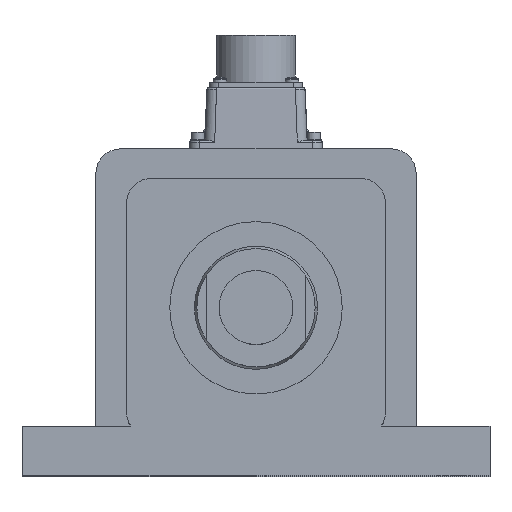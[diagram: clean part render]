
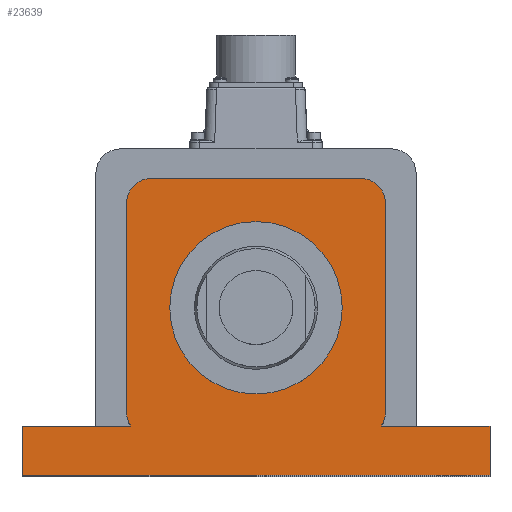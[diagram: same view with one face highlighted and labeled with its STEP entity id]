
A CAD part, top view. The second image highlights one B-rep face of the part: STEP entity #23639.
In plain terms, the highlighted planar face has unit normal (0, 0, 1).
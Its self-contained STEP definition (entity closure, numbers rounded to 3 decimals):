
#312 = AXIS2_PLACEMENT_3D ( 'NONE', #16062, #20297, #18145 ) ;
#657 = PLANE ( 'NONE',  #4209 ) ;
#1234 = ORIENTED_EDGE ( 'NONE', *, *, #10467, .T. ) ;
#1634 = ORIENTED_EDGE ( 'NONE', *, *, #5200, .F. ) ;
#1679 = AXIS2_PLACEMENT_3D ( 'NONE', #7863, #16370, #12361 ) ;
#1775 = CARTESIAN_POINT ( 'NONE',  ( -42.5, 42.5, 270. ) ) ;
#2016 = CARTESIAN_POINT ( 'NONE',  ( 42.5, 52.5, 270. ) ) ;
#2102 = ORIENTED_EDGE ( 'NONE', *, *, #9242, .T. ) ;
#2783 = LINE ( 'NONE', #5473, #22463 ) ;
#2962 = CIRCLE ( 'NONE', #15936, 10. ) ;
#3521 = FACE_BOUND ( 'NONE', #5002, .T. ) ;
#3618 = EDGE_LOOP ( 'NONE', ( #12218, #22902, #17394, #25318, #14630, #20399, #1234, #7174, #23827, #16549, #5455, #2102 ) ) ;
#3855 = VERTEX_POINT ( 'NONE', #27675 ) ;
#4209 = AXIS2_PLACEMENT_3D ( 'NONE', #9551, #16151, #24718 ) ;
#4526 = VERTEX_POINT ( 'NONE', #17341 ) ;
#4892 = CARTESIAN_POINT ( 'NONE',  ( -52.5, -42.5, 270. ) ) ;
#5002 = EDGE_LOOP ( 'NONE', ( #13065, #1634 ) ) ;
#5200 = EDGE_CURVE ( 'NONE', #19059, #18921, #8005, .T. ) ;
#5455 = ORIENTED_EDGE ( 'NONE', *, *, #12729, .T. ) ;
#5473 = CARTESIAN_POINT ( 'NONE',  ( 65., -48., 270. ) ) ;
#5569 = LINE ( 'NONE', #13123, #20534 ) ;
#5958 = DIRECTION ( 'NONE',  ( 0., -1., 0. ) ) ;
#7113 = VECTOR ( 'NONE', #19212, 1000. ) ;
#7174 = ORIENTED_EDGE ( 'NONE', *, *, #28094, .T. ) ;
#7485 = EDGE_CURVE ( 'NONE', #26475, #14685, #5569, .T. ) ;
#7762 = CARTESIAN_POINT ( 'NONE',  ( 95., -48., 270. ) ) ;
#7863 = CARTESIAN_POINT ( 'NONE',  ( 42.5, 42.5, 270. ) ) ;
#8005 = CIRCLE ( 'NONE', #10533, 35. ) ;
#8366 = EDGE_CURVE ( 'NONE', #18921, #19059, #25172, .T. ) ;
#8420 = CARTESIAN_POINT ( 'NONE',  ( -95., -68., 270. ) ) ;
#8481 = CIRCLE ( 'NONE', #12428, 10. ) ;
#8773 = EDGE_CURVE ( 'NONE', #26855, #4526, #9223, .T. ) ;
#8872 = CARTESIAN_POINT ( 'NONE',  ( -52.5, 42.5, 270. ) ) ;
#9037 = CARTESIAN_POINT ( 'NONE',  ( 95., -48., 270. ) ) ;
#9066 = EDGE_CURVE ( 'NONE', #14362, #13012, #2783, .T. ) ;
#9223 = CIRCLE ( 'NONE', #312, 10. ) ;
#9242 = EDGE_CURVE ( 'NONE', #15241, #26855, #12295, .T. ) ;
#9327 = LINE ( 'NONE', #9037, #9644 ) ;
#9551 = CARTESIAN_POINT ( 'NONE',  ( 42.5, 42.5, 270. ) ) ;
#9644 = VECTOR ( 'NONE', #11447, 1000. ) ;
#10162 = EDGE_CURVE ( 'NONE', #3855, #26475, #24093, .T. ) ;
#10467 = EDGE_CURVE ( 'NONE', #13012, #21409, #8481, .T. ) ;
#10533 = AXIS2_PLACEMENT_3D ( 'NONE', #21826, #17505, #24089 ) ;
#10721 = LINE ( 'NONE', #24405, #19533 ) ;
#10826 = EDGE_CURVE ( 'NONE', #4526, #3855, #17008, .T. ) ;
#11141 = CARTESIAN_POINT ( 'NONE',  ( 52.5, 42.5, 270. ) ) ;
#11447 = DIRECTION ( 'NONE',  ( 0., 1., 0. ) ) ;
#11534 = CARTESIAN_POINT ( 'NONE',  ( 50.852, -48., 270. ) ) ;
#11813 = CARTESIAN_POINT ( 'NONE',  ( 0., 0., 270. ) ) ;
#11864 = DIRECTION ( 'NONE',  ( -1., 0., 0. ) ) ;
#12218 = ORIENTED_EDGE ( 'NONE', *, *, #8773, .T. ) ;
#12259 = CARTESIAN_POINT ( 'NONE',  ( -95., -68., 270. ) ) ;
#12295 = LINE ( 'NONE', #4892, #23820 ) ;
#12361 = DIRECTION ( 'NONE',  ( 1., 0., 0. ) ) ;
#12428 = AXIS2_PLACEMENT_3D ( 'NONE', #13770, #24553, #11864 ) ;
#12618 = DIRECTION ( 'NONE',  ( -1., 0., 0. ) ) ;
#12729 = EDGE_CURVE ( 'NONE', #27356, #15241, #2962, .T. ) ;
#13012 = VERTEX_POINT ( 'NONE', #11534 ) ;
#13065 = ORIENTED_EDGE ( 'NONE', *, *, #8366, .F. ) ;
#13123 = CARTESIAN_POINT ( 'NONE',  ( 95., -68., 270. ) ) ;
#13142 = CARTESIAN_POINT ( 'NONE',  ( 95., -68., 270. ) ) ;
#13770 = CARTESIAN_POINT ( 'NONE',  ( 42.5, -42.5, 270. ) ) ;
#14362 = VERTEX_POINT ( 'NONE', #7762 ) ;
#14510 = VERTEX_POINT ( 'NONE', #2016 ) ;
#14630 = ORIENTED_EDGE ( 'NONE', *, *, #28093, .T. ) ;
#14685 = VERTEX_POINT ( 'NONE', #13142 ) ;
#14730 = CARTESIAN_POINT ( 'NONE',  ( -42.5, 52.5, 270. ) ) ;
#15241 = VERTEX_POINT ( 'NONE', #8872 ) ;
#15936 = AXIS2_PLACEMENT_3D ( 'NONE', #1775, #21105, #21495 ) ;
#16062 = CARTESIAN_POINT ( 'NONE',  ( -42.5, -42.5, 270. ) ) ;
#16107 = FACE_OUTER_BOUND ( 'NONE', #3618, .T. ) ;
#16151 = DIRECTION ( 'NONE',  ( 0., 0., 1. ) ) ;
#16370 = DIRECTION ( 'NONE',  ( 0., 0., 1. ) ) ;
#16549 = ORIENTED_EDGE ( 'NONE', *, *, #26014, .T. ) ;
#16899 = CARTESIAN_POINT ( 'NONE',  ( 65., -48., 270. ) ) ;
#17008 = LINE ( 'NONE', #16899, #21743 ) ;
#17291 = DIRECTION ( 'NONE',  ( 1., 0., 0. ) ) ;
#17341 = CARTESIAN_POINT ( 'NONE',  ( -50.852, -48., 270. ) ) ;
#17394 = ORIENTED_EDGE ( 'NONE', *, *, #10162, .T. ) ;
#17505 = DIRECTION ( 'NONE',  ( 0., 0., 1. ) ) ;
#17564 = AXIS2_PLACEMENT_3D ( 'NONE', #11813, #20616, #26954 ) ;
#17814 = DIRECTION ( 'NONE',  ( 0., 1., 0. ) ) ;
#18145 = DIRECTION ( 'NONE',  ( -1., 0., 0. ) ) ;
#18315 = CARTESIAN_POINT ( 'NONE',  ( -52.5, -42.5, 270. ) ) ;
#18921 = VERTEX_POINT ( 'NONE', #24035 ) ;
#19059 = VERTEX_POINT ( 'NONE', #24995 ) ;
#19212 = DIRECTION ( 'NONE',  ( -1., 0., 0. ) ) ;
#19533 = VECTOR ( 'NONE', #17814, 1000. ) ;
#19589 = CARTESIAN_POINT ( 'NONE',  ( 42.5, 52.5, 270. ) ) ;
#19979 = DIRECTION ( 'NONE',  ( 0., -1., 0. ) ) ;
#20297 = DIRECTION ( 'NONE',  ( 0., 0., 1. ) ) ;
#20399 = ORIENTED_EDGE ( 'NONE', *, *, #9066, .T. ) ;
#20432 = VERTEX_POINT ( 'NONE', #11141 ) ;
#20534 = VECTOR ( 'NONE', #17291, 1000. ) ;
#20616 = DIRECTION ( 'NONE',  ( 0., 0., 1. ) ) ;
#21105 = DIRECTION ( 'NONE',  ( 0., 0., 1. ) ) ;
#21409 = VERTEX_POINT ( 'NONE', #24376 ) ;
#21495 = DIRECTION ( 'NONE',  ( -1., 0., 0. ) ) ;
#21743 = VECTOR ( 'NONE', #12618, 1000. ) ;
#21826 = CARTESIAN_POINT ( 'NONE',  ( 0., 0., 270. ) ) ;
#22463 = VECTOR ( 'NONE', #27959, 1000. ) ;
#22902 = ORIENTED_EDGE ( 'NONE', *, *, #10826, .T. ) ;
#23450 = LINE ( 'NONE', #19589, #7113 ) ;
#23639 = ADVANCED_FACE ( 'NONE', ( #16107, #3521 ), #657, .T. ) ;
#23820 = VECTOR ( 'NONE', #19979, 1000. ) ;
#23827 = ORIENTED_EDGE ( 'NONE', *, *, #24660, .T. ) ;
#24035 = CARTESIAN_POINT ( 'NONE',  ( -35., 0., 270. ) ) ;
#24089 = DIRECTION ( 'NONE',  ( 1., 0., 0. ) ) ;
#24093 = LINE ( 'NONE', #12259, #25058 ) ;
#24376 = CARTESIAN_POINT ( 'NONE',  ( 52.5, -42.5, 270. ) ) ;
#24405 = CARTESIAN_POINT ( 'NONE',  ( 52.5, -42.5, 270. ) ) ;
#24553 = DIRECTION ( 'NONE',  ( 0., 0., 1. ) ) ;
#24660 = EDGE_CURVE ( 'NONE', #20432, #14510, #25836, .T. ) ;
#24718 = DIRECTION ( 'NONE',  ( 1., 0., 0. ) ) ;
#24995 = CARTESIAN_POINT ( 'NONE',  ( 35., 0., 270. ) ) ;
#25058 = VECTOR ( 'NONE', #5958, 1000. ) ;
#25172 = CIRCLE ( 'NONE', #17564, 35. ) ;
#25318 = ORIENTED_EDGE ( 'NONE', *, *, #7485, .T. ) ;
#25836 = CIRCLE ( 'NONE', #1679, 10. ) ;
#26014 = EDGE_CURVE ( 'NONE', #14510, #27356, #23450, .T. ) ;
#26475 = VERTEX_POINT ( 'NONE', #8420 ) ;
#26855 = VERTEX_POINT ( 'NONE', #18315 ) ;
#26954 = DIRECTION ( 'NONE',  ( 1., 0., 0. ) ) ;
#27356 = VERTEX_POINT ( 'NONE', #14730 ) ;
#27675 = CARTESIAN_POINT ( 'NONE',  ( -95., -48., 270. ) ) ;
#27959 = DIRECTION ( 'NONE',  ( -1., 0., 0. ) ) ;
#28093 = EDGE_CURVE ( 'NONE', #14685, #14362, #9327, .T. ) ;
#28094 = EDGE_CURVE ( 'NONE', #21409, #20432, #10721, .T. ) ;
